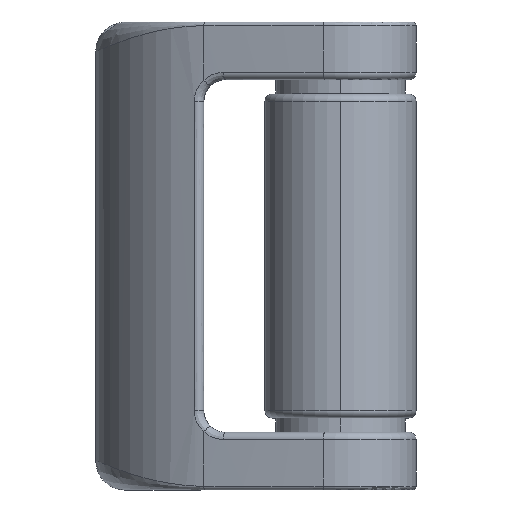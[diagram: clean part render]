
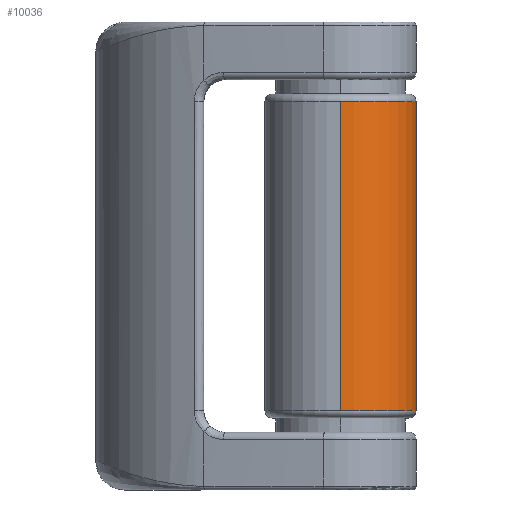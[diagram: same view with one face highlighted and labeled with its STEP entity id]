
A CAD part, top view. The second image highlights one B-rep face of the part: STEP entity #10036.
In plain terms, the highlighted cylindrical face has radius 10.5 mm (diameter 21 mm), a partial arc.
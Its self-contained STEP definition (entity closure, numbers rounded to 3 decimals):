
#88 = DIRECTION ( 'NONE',  ( 0., -1., 0. ) ) ;
#180 = VERTEX_POINT ( 'NONE', #2326 ) ;
#242 = DIRECTION ( 'NONE',  ( 0., 1., 0. ) ) ;
#341 = CARTESIAN_POINT ( 'NONE',  ( 0., 21.5, 12. ) ) ;
#591 = EDGE_CURVE ( 'NONE', #180, #5223, #5255, .T. ) ;
#988 = CIRCLE ( 'NONE', #2681, 10.5 ) ;
#1052 = LINE ( 'NONE', #3739, #3227 ) ;
#1146 = AXIS2_PLACEMENT_3D ( 'NONE', #11307, #242, #6706 ) ;
#1280 = DIRECTION ( 'NONE',  ( 0., 0., -1. ) ) ;
#1823 = EDGE_CURVE ( 'NONE', #5223, #10909, #1052, .T. ) ;
#2326 = CARTESIAN_POINT ( 'NONE',  ( 10.5, -21.5, 12. ) ) ;
#2681 = AXIS2_PLACEMENT_3D ( 'NONE', #341, #6811, #1280 ) ;
#2708 = CARTESIAN_POINT ( 'NONE',  ( 0., 21.5, 22.5 ) ) ;
#3227 = VECTOR ( 'NONE', #10424, 1000. ) ;
#3739 = CARTESIAN_POINT ( 'NONE',  ( 0., -0.001, 22.5 ) ) ;
#3760 = ORIENTED_EDGE ( 'NONE', *, *, #1823, .F. ) ;
#3883 = EDGE_LOOP ( 'NONE', ( #3760, #4423, #6126, #5385 ) ) ;
#4423 = ORIENTED_EDGE ( 'NONE', *, *, #591, .F. ) ;
#4976 = CARTESIAN_POINT ( 'NONE',  ( 10.5, -0.001, 12. ) ) ;
#5039 = VECTOR ( 'NONE', #5918, 1000. ) ;
#5043 = EDGE_CURVE ( 'NONE', #180, #6160, #5322, .T. ) ;
#5223 = VERTEX_POINT ( 'NONE', #6167 ) ;
#5255 = CIRCLE ( 'NONE', #9554, 10.5 ) ;
#5322 = LINE ( 'NONE', #4976, #5039 ) ;
#5385 = ORIENTED_EDGE ( 'NONE', *, *, #8410, .T. ) ;
#5609 = DIRECTION ( 'NONE',  ( 0., 0., -1. ) ) ;
#5918 = DIRECTION ( 'NONE',  ( 0., 1., 0. ) ) ;
#6126 = ORIENTED_EDGE ( 'NONE', *, *, #5043, .T. ) ;
#6160 = VERTEX_POINT ( 'NONE', #6689 ) ;
#6167 = CARTESIAN_POINT ( 'NONE',  ( 0., -21.5, 22.5 ) ) ;
#6326 = CYLINDRICAL_SURFACE ( 'NONE', #1146, 10.5 ) ;
#6552 = CARTESIAN_POINT ( 'NONE',  ( 0., -21.5, 12. ) ) ;
#6689 = CARTESIAN_POINT ( 'NONE',  ( 10.5, 21.5, 12. ) ) ;
#6706 = DIRECTION ( 'NONE',  ( 0., 0., 1. ) ) ;
#6811 = DIRECTION ( 'NONE',  ( 0., -1., 0. ) ) ;
#8410 = EDGE_CURVE ( 'NONE', #6160, #10909, #988, .T. ) ;
#9554 = AXIS2_PLACEMENT_3D ( 'NONE', #6552, #88, #5609 ) ;
#10036 = ADVANCED_FACE ( 'NONE', ( #11229 ), #6326, .T. ) ;
#10424 = DIRECTION ( 'NONE',  ( 0., 1., 0. ) ) ;
#10909 = VERTEX_POINT ( 'NONE', #2708 ) ;
#11229 = FACE_OUTER_BOUND ( 'NONE', #3883, .T. ) ;
#11307 = CARTESIAN_POINT ( 'NONE',  ( 0., -0.001, 12. ) ) ;
